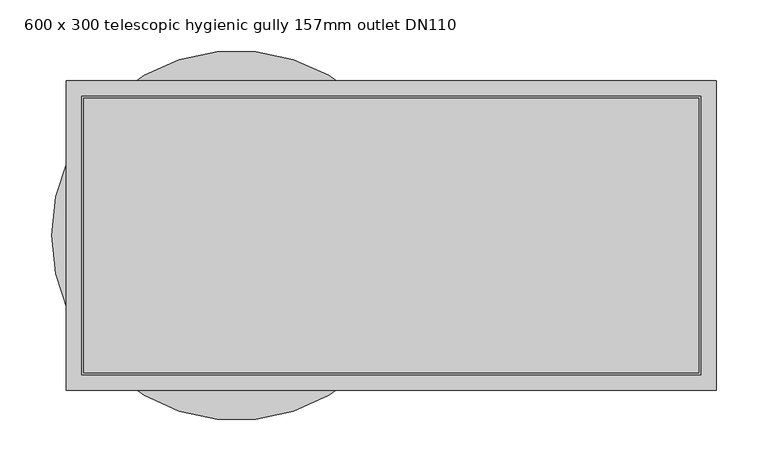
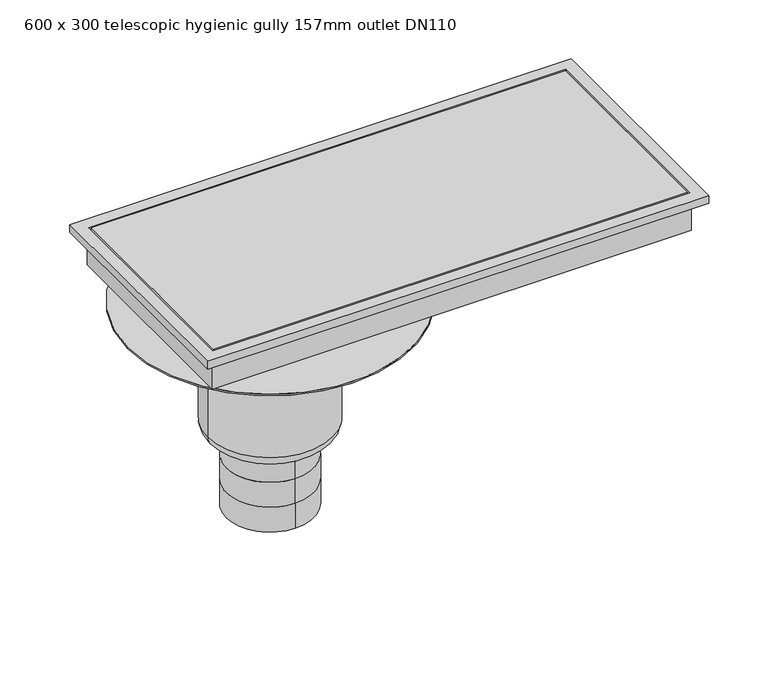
"""IFC4 building model written with IfcOpenShell, lengths in millimetres: sanitary terminal geometry, PF_ST_UN_Siphon telescopics eskis hygiene first_ACO : 600 x 300 telescopic hygienic gully 157mm outlet DN110."""

import ifcopenshell
import ifcopenshell.guid

model = None  # the IFC model being written
_history = None  # IfcOwnerHistory: only IFC2X3 demands one
_inside = {}  # id of a spatial element -> (the spatial element, [elements in it])
_under = {}  # id of a project, library or spatial element -> (it, [spatial elements below it])
_declared = {}  # id of a project -> (the project, [libraries it declares])
_typed = {}  # id of a type object -> (the type object, [elements of that type])
_made_of = {}  # id of a material, layer set ... -> (it, [elements and type objects made of it])


def new_model(schema):
    """Start an empty IFC model of exactly this schema.

    Asked for "IFC4X3", IfcOpenShell would pick the latest addendum, in which some entities
    have other attributes; the version numbers below select the first issue.
    IFC2X3 requires an IfcOwnerHistory on every rooted entity: one is made here for all.
    """
    global model, _history
    if schema == "IFC4X3":
        model = ifcopenshell.file(schema_version=(4, 3, 0, 0))
    else:
        model = ifcopenshell.file(schema=schema)
    _inside.clear()
    _under.clear()
    _declared.clear()
    _typed.clear()
    _made_of.clear()
    _history = None
    if model.schema == "IFC2X3":
        org = make("IfcOrganization", Name="unknown")
        user = make(
            "IfcPersonAndOrganization",
            ThePerson=make("IfcPerson", FamilyName="unknown"),
            TheOrganization=org,
        )
        app = make(
            "IfcApplication",
            ApplicationDeveloper=org,
            Version="unknown",
            ApplicationFullName="unknown",
            ApplicationIdentifier="unknown",
        )
        _history = make(
            "IfcOwnerHistory",
            OwningUser=user,
            OwningApplication=app,
            ChangeAction="ADDED",
            CreationDate=0,
        )
    return model


def make(cls, **values):
    """One entity of the class cls with the attributes given. An attribute that is None is left unset."""
    return model.create_entity(
        cls, **{name: value for name, value in values.items() if value is not None}
    )


def rooted(cls, **values):
    """An entity with a GlobalId (a new one), such as an element, a storey or a relation."""
    return make(cls, GlobalId=ifcopenshell.guid.new(), OwnerHistory=_history, **values)


def si_unit(unit_type, name, prefix=None):
    """IfcSIUnit, for example si_unit("LENGTHUNIT", "METRE", prefix="MILLI")."""
    return make("IfcSIUnit", UnitType=unit_type, Prefix=prefix, Name=name)


def assignment(units):
    """IfcUnitAssignment: the units of a project."""
    return None if units is None else make("IfcUnitAssignment", Units=units)


def point(xyz):
    """IfcCartesianPoint."""
    return None if xyz is None else make("IfcCartesianPoint", Coordinates=xyz)


def direction(xyz):
    """IfcDirection."""
    return None if xyz is None else make("IfcDirection", DirectionRatios=xyz)


def frame(location, z_axis=None, x_axis=None):
    """IfcAxis2Placement3D, a coordinate frame: its origin and axes. An axis left out is left unset."""
    return make(
        "IfcAxis2Placement3D",
        Location=point(location),
        Axis=direction(z_axis),
        RefDirection=direction(x_axis),
    )


def frame_2d(location, x_axis=None):
    """IfcAxis2Placement2D, a coordinate frame in the plane: its origin and x axis."""
    return make(
        "IfcAxis2Placement2D", Location=point(location), RefDirection=direction(x_axis)
    )


def origin():
    """The frame at (0, 0, 0) with its axes left unset."""
    return frame((0.0, 0.0, 0.0))


def origin_2d():
    """The frame at (0, 0) in the plane with its x axis left unset."""
    return frame_2d((0.0, 0.0))


def place(relative_to, where):
    """IfcLocalPlacement: puts the frame where relative to a parent placement (None: the world)."""
    return make(
        "IfcLocalPlacement", PlacementRelTo=relative_to, RelativePlacement=where
    )


def context(
    kind, dimensions, precision=None, world=None, true_north=None, identifier=None
):
    """IfcGeometricRepresentationContext, for example the 3D "Model" context."""
    return make(
        "IfcGeometricRepresentationContext",
        ContextIdentifier=identifier,
        ContextType=kind,
        CoordinateSpaceDimension=dimensions,
        Precision=precision,
        WorldCoordinateSystem=world,
        TrueNorth=true_north,
    )


def project(units=None, contexts=None):
    """IfcProject with its units and contexts."""
    return rooted(
        "IfcProject",
        Name="project",
        RepresentationContexts=contexts,
        UnitsInContext=assignment(units),
    )


def spatial(cls, under=None, at=None, **own):
    """A site, building, storey or space (cls), placed at a placement, below another one or the project."""
    s = rooted(cls, ObjectPlacement=at, **own)
    if under is not None:
        _under.setdefault(under.id(), (under, []))[1].append(s)
    return s


def polyline(points):
    """IfcPolyline through the points."""
    return make("IfcPolyline", Points=[point(p) for p in points])


def circle_curve(where, radius):
    """IfcCircle in the frame where."""
    return make("IfcCircle", Position=where, Radius=radius)


def ellipse_curve(where, semi_axis1, semi_axis2):
    """IfcEllipse in the frame where."""
    return make(
        "IfcEllipse", Position=where, SemiAxis1=semi_axis1, SemiAxis2=semi_axis2
    )


def trimmed(basis, trim1, trim2, sense, master):
    """IfcTrimmedCurve: the piece of a basis curve between two trims."""
    return make(
        "IfcTrimmedCurve",
        BasisCurve=basis,
        Trim1=trim1,
        Trim2=trim2,
        SenseAgreement=sense,
        MasterRepresentation=master,
    )


def segment(curve, same_sense, transition):
    """IfcCompositeCurveSegment."""
    return make(
        "IfcCompositeCurveSegment",
        Transition=transition,
        SameSense=same_sense,
        ParentCurve=curve,
    )


def composite_curve(segments, self_intersect=None):
    """IfcCompositeCurve: segments joined end to end."""
    return make("IfcCompositeCurve", Segments=segments, SelfIntersect=self_intersect)


def outline(outer, holes=None, kind="AREA"):
    """IfcArbitraryClosedProfileDef: a profile drawn as a closed curve; with holes, ...WithVoids."""
    if holes is None:
        return make("IfcArbitraryClosedProfileDef", ProfileType=kind, OuterCurve=outer)
    return make(
        "IfcArbitraryProfileDefWithVoids",
        ProfileType=kind,
        OuterCurve=outer,
        InnerCurves=holes,
    )


def extrude(swept, where, along, depth):
    """IfcExtrudedAreaSolid: the profile swept, set in the frame where, extruded along a direction by depth."""
    return make(
        "IfcExtrudedAreaSolid",
        SweptArea=swept,
        Position=where,
        ExtrudedDirection=direction(along),
        Depth=depth,
    )


def faces_of(points, faces, orient=None, outer=None):
    """IfcFace entities. A face is a list of loops; a loop is a list of indices into points, from 0.

    orient and outer hold one flag for each loop. By default every Orientation is true, the
    first loop of a face is its IfcFaceOuterBound and the others are IfcFaceBound.
    """
    made = []
    for i, loops in enumerate(faces):
        bounds = []
        for j, loop in enumerate(loops):
            is_outer = j == 0 if outer is None else outer[i][j]
            bounds.append(
                make(
                    "IfcFaceOuterBound" if is_outer else "IfcFaceBound",
                    Bound=make("IfcPolyLoop", Polygon=[points[k] for k in loop]),
                    Orientation=True if orient is None else orient[i][j],
                )
            )
        made.append(make("IfcFace", Bounds=bounds))
    return made


def faceted_brep(points, faces, orient=None, outer=None, voids=None):
    """IfcFacetedBrep: a solid bounded by flat faces; with voids (closed shells), ...WithVoids."""
    shared = [point(p) for p in points]
    hull = make("IfcClosedShell", CfsFaces=faces_of(shared, faces, orient, outer))
    if voids is None:
        return make("IfcFacetedBrep", Outer=hull)
    return make(
        "IfcFacetedBrepWithVoids",
        Outer=hull,
        Voids=[
            make(cls, CfsFaces=faces_of(shared, fs, o, b)) for cls, fs, o, b in voids
        ],
    )


def shape(context_of_items, identifier, shape_type, items):
    """IfcShapeRepresentation: the items that make up one representation, for example the "Body"."""
    return make(
        "IfcShapeRepresentation",
        ContextOfItems=context_of_items,
        RepresentationIdentifier=identifier,
        RepresentationType=shape_type,
        Items=items,
    )


def source(mapping_origin, context_of_items, identifier, shape_type, items):
    """IfcRepresentationMap: a shape defined once, which mapped items show again and again."""
    return make(
        "IfcRepresentationMap",
        MappingOrigin=mapping_origin,
        MappedRepresentation=shape(context_of_items, identifier, shape_type, items),
    )


def transform(
    local_origin,
    x_axis=None,
    y_axis=None,
    z_axis=None,
    scale=None,
    scale2=None,
    scale3=None,
    uniform=True,
):
    """IfcCartesianTransformationOperator3D, or its non-uniform kind. x_axis, y_axis, z_axis: its Axis1, 2, 3."""
    if uniform:
        return make(
            "IfcCartesianTransformationOperator3D",
            Axis1=direction(x_axis),
            Axis2=direction(y_axis),
            LocalOrigin=point(local_origin),
            Scale=scale,
            Axis3=direction(z_axis),
        )
    return make(
        "IfcCartesianTransformationOperator3DnonUniform",
        Axis1=direction(x_axis),
        Axis2=direction(y_axis),
        LocalOrigin=point(local_origin),
        Scale=scale,
        Axis3=direction(z_axis),
        Scale2=scale2,
        Scale3=scale3,
    )


def mapped(mapping_source, mapping_target):
    """IfcMappedItem: shows the shape of a source again, moved by a transform."""
    return make(
        "IfcMappedItem", MappingSource=mapping_source, MappingTarget=mapping_target
    )


def made_of(thing, what):
    """Note that an element or type object is made of a material, layer set ...; save() writes the relation."""
    if what is not None:
        _made_of.setdefault(what.id(), (what, []))[1].append(thing)
    return thing


def element(
    cls,
    number,
    at=None,
    inside=None,
    cuts=None,
    type_object=None,
    material=None,
    context=None,
    identifier="Body",
    shape_type=None,
    held_by="IfcProductDefinitionShape",
    body=None,
    shapes=None,
    **own,
):
    """One element of the class cls, such as IfcWall. Its Tag is "e" and its number.

    at: its placement. inside: the storey or other place that contains it. cuts: it is an
    opening in that element (IfcRelVoidsElement). A single representation is given by context,
    identifier, shape_type and body (its items); several are given by shapes. held_by: the class
    of the entity that holds the representations. save() writes the other relations.
    """
    e = rooted(cls, Tag="e%d" % number, ObjectPlacement=at, **own)
    if body is not None:
        shapes = [shape(context, identifier, shape_type, body)]
    if shapes is not None:
        e.Representation = make(held_by, Representations=shapes)
    if inside is not None:
        _inside.setdefault(inside.id(), (inside, []))[1].append(e)
    if cuts is not None:
        rooted(
            "IfcRelVoidsElement", RelatingBuildingElement=cuts, RelatedOpeningElement=e
        )
    if type_object is not None:
        _typed.setdefault(type_object.id(), (type_object, []))[1].append(e)
    return made_of(e, material)


def aggregate(whole, parts):
    """IfcRelAggregates: a whole, such as a stair, and the parts it consists of."""
    return rooted("IfcRelAggregates", RelatingObject=whole, RelatedObjects=parts)


def save(model, path):
    """Write the relations noted so far, then the file.

    IfcRelAggregates (storeys below a building ...), IfcRelContainedInSpatialStructure (elements
    in a storey), IfcRelDefinesByType, IfcRelAssociatesMaterial and IfcRelDeclares: one each for
    every whole, place, type object, material and project.
    """
    for whole, parts in _under.values():
        aggregate(whole, parts)
    for where, things in _inside.values():
        rooted(
            "IfcRelContainedInSpatialStructure",
            RelatedElements=things,
            RelatingStructure=where,
        )
    for kind, things in _typed.values():
        rooted("IfcRelDefinesByType", RelatedObjects=things, RelatingType=kind)
    for what, things in _made_of.values():
        rooted("IfcRelAssociatesMaterial", RelatedObjects=things, RelatingMaterial=what)
    for by, libraries in _declared.values():
        rooted("IfcRelDeclares", RelatingContext=by, RelatedDefinitions=libraries)
    model.write(path)


def plane_surface(at):
    """IfcPlane: the flat surface through the origin of the frame at, square to its z axis."""
    return make("IfcPlane", Position=at)


def cylinder_surface(at, radius):
    """IfcCylindricalSurface: all points at the distance radius from the z axis of the frame at."""
    return make("IfcCylindricalSurface", Position=at, Radius=radius)


def revolved_surface(curve, axis_point, axis_direction):
    """IfcSurfaceOfRevolution: the curve turned about the line through axis_point along axis_direction."""
    return make(
        "IfcSurfaceOfRevolution",
        SweptCurve=make("IfcArbitraryOpenProfileDef", ProfileType="CURVE", Curve=curve),
        AxisPosition=make("IfcAxis1Placement", Location=point(axis_point), Axis=direction(axis_direction)),
    )


def advanced_brep(points, edges, surfaces, faces):
    """IfcAdvancedBrep: a solid bounded by faces that lie on surfaces and meet in shared edges.

    An edge is (start, end): straight between two places in points (the first is 0);
    or (start, end, curve); or (start, end, curve, False) where it runs against its curve.
    A face is (place in surfaces, loops), or (place, loops, False) where it looks against
    its surface's normal. A loop lists edges by number (the first is 1), with a minus sign
    where the edge is run from its end to its start. The first loop is the outer one.
    """
    corners = [point(p) for p in points]
    vertices = [make("IfcVertexPoint", VertexGeometry=c) for c in corners]
    made = []
    for start, end, *more in edges:
        made.append(
            make(
                "IfcEdgeCurve",
                EdgeStart=vertices[start],
                EdgeEnd=vertices[end],
                EdgeGeometry=more[0] if more else make("IfcPolyline", Points=[corners[start], corners[end]]),
                SameSense=more[1] if len(more) > 1 else True,
            )
        )
    hull = []
    for where, loops, *sense in faces:
        bounds = []
        for j, loop in enumerate(loops):
            ring = [make("IfcOrientedEdge", EdgeElement=made[abs(k) - 1], Orientation=k > 0) for k in loop]
            bounds.append(
                make(
                    "IfcFaceOuterBound" if j == 0 else "IfcFaceBound",
                    Bound=make("IfcEdgeLoop", EdgeList=ring),
                    Orientation=True,
                )
            )
        hull.append(make("IfcAdvancedFace", Bounds=bounds, FaceSurface=surfaces[where], SameSense=sense[0] if sense else True))
    return make("IfcAdvancedBrep", Outer=make("IfcClosedShell", CfsFaces=hull))


def sanitary_terminal_600_x_300_telescopic_hygienic_gully_157mm_21e1eede(model_context):
    return source(origin(), model_context, "Body", "SolidModel", [
        extrude(outline(composite_curve([segment(trimmed(circle_curve(origin_2d(), 71.5), [point((-71.5, 0.0))], [point((71.5, 0.0))], False, "CARTESIAN"), True, "CONTINUOUS"), segment(trimmed(circle_curve(origin_2d(), 71.5), [point((71.5, 0.0))], [point((-71.5, 0.0))], False, "CARTESIAN"), True, "CONTINUOUS")], self_intersect=False)), frame((0.0, 0.0, -240.0), z_axis=(0.0, 0.0, 1.0), x_axis=(1.0, 0.0, 0.0)), (0.0, 0.0, 1.0), 70.0),
        faceted_brep([(465.0, 150.0, -130.0), (465.0, 150.0, -120.0), (465.0, -150.0, -120.0), (465.0, -150.0, -130.0), (451.0, 136.0, -170.0), (451.0, 136.0, -130.0), (451.0, -136.0, -130.0), (451.0, -136.0, -170.0), (450.0, -135.0, -120.0), (450.0, 135.0, -120.0), (450.0, 135.0, -160.0), (450.0, -135.0, -160.0), (-165.0, -150.0, -120.0), (-165.0, -150.0, -130.0), (-151.0, -136.0, -130.0), (-151.0, -136.0, -170.0), (-150.0, -135.0, -120.0), (-150.0, -135.0, -160.0), (-165.0, 150.0, -120.0), (-165.0, 150.0, -130.0), (-151.0, 136.0, -130.0), (-151.0, 136.0, -170.0), (-150.0, 135.0, -120.0), (-150.0, 135.0, -160.0)], [[[0, 1, 2, 3]], [[4, 5, 6, 7]], [[8, 9, 10, 11]], [[3, 2, 12, 13]], [[7, 6, 14, 15]], [[16, 8, 11, 17]], [[13, 12, 18, 19]], [[15, 14, 20, 21]], [[22, 16, 17, 23]], [[2, 1, 18, 12], [9, 8, 16, 22]], [[1, 0, 19, 18]], [[0, 3, 13, 19], [6, 5, 20, 14]], [[5, 4, 21, 20]], [[4, 7, 15, 21]], [[9, 22, 23, 10]], [[11, 10, 23, 17]]]),
        extrude(outline(polyline([(448.0, 133.0), (448.0, -133.0), (-148.0, -133.0), (-148.0, 133.0), (448.0, 133.0)])), frame((0.0, 0.0, -160.0), z_axis=(0.0, 0.0, 1.0), x_axis=(1.0, 0.0, 0.0)), (0.0, 0.0, 1.0), 40.0),
        advanced_brep(
        [(0.0, -55.0, -457.0), (0.0, 55.0, -457.0), (0.0, -55.0, -424.0), (0.0, 55.0, -424.0), (0.0, -55.0, -391.0), (0.0, 55.0, -391.0), (0.0, 55.0, -358.0), (55.0, 0.0, -358.0), (0.0, -55.0, -358.0), (-55.0, 0.0, -358.0), (78.5, 0.0, -341.5), (-78.5, 0.0, -341.5), (-78.5, 0.0, -189.0), (78.5, 0.0, -189.0), (62.0, 0.0, -358.0), (-62.0, 0.0, -358.0), (-179.0, 0.0, -189.0), (179.0, 0.0, -189.0), (-179.0, 0.0, -187.0), (179.0, 0.0, -187.0)],
        [
            (0, 1, circle_curve(frame((0.0, 0.0, -457.0), z_axis=(0.0, 0.0, -1.0), x_axis=(0.0, 1.0, 0.0)), 55.0)),
            (1, 0, circle_curve(frame((0.0, 0.0, -457.0), z_axis=(0.0, 0.0, -1.0), x_axis=(0.0, 1.0, 0.0)), 55.0)),
            (0, 2),
            (2, 3, circle_curve(frame((0.0, 0.0, -424.0), z_axis=(0.0, 0.0, -1.0), x_axis=(0.0, 1.0, 0.0)), 55.0)),
            (3, 1),
            (3, 2, circle_curve(frame((0.0, 0.0, -424.0), z_axis=(0.0, 0.0, -1.0), x_axis=(0.0, 1.0, 0.0)), 55.0)),
            (4, 2),
            (3, 5),
            (5, 4, circle_curve(frame((0.0, 0.0, -391.0), z_axis=(0.0, 0.0, -1.0), x_axis=(1.0, 0.0, 0.0)), 55.0)),
            (4, 5, circle_curve(frame((0.0, 0.0, -391.0), z_axis=(0.0, 0.0, -1.0), x_axis=(-1.0, 0.0, 0.0)), 55.0)),
            (5, 6),
            (6, 7, circle_curve(frame((0.0, 0.0, -358.0), z_axis=(0.0, 0.0, -1.0), x_axis=(0.0, 1.0, 0.0)), 55.0)),
            (7, 8, circle_curve(frame((0.0, 0.0, -358.0), z_axis=(0.0, 0.0, -1.0), x_axis=(0.0, 1.0, 0.0)), 55.0)),
            (8, 4),
            (8, 9, circle_curve(frame((0.0, 0.0, -358.0), z_axis=(0.0, 0.0, -1.0), x_axis=(0.0, 1.0, 0.0)), 55.0)),
            (9, 6, circle_curve(frame((0.0, 0.0, -358.0), z_axis=(0.0, 0.0, -1.0), x_axis=(0.0, 1.0, 0.0)), 55.0)),
            (10, 11, circle_curve(frame((0.0, 0.0, -341.5), z_axis=(0.0, 0.0, 1.0), x_axis=(-1.0, 0.0, 0.0)), 78.5)),
            (11, 12),
            (12, 13, circle_curve(frame((0.0, 0.0, -189.0), z_axis=(0.0, 0.0, -1.0), x_axis=(-1.0, 0.0, 0.0)), 78.5)),
            (13, 10),
            (11, 10, circle_curve(frame((0.0, 0.0, -341.5), z_axis=(0.0, 0.0, 1.0), x_axis=(-1.0, 0.0, 0.0)), 78.5)),
            (13, 12, circle_curve(frame((0.0, 0.0, -189.0), z_axis=(0.0, 0.0, -1.0), x_axis=(-1.0, 0.0, 0.0)), 78.5)),
            (10, 14, circle_curve(frame((62.0, 0.0, -341.5), z_axis=(0.0, 1.0, 0.0), x_axis=(-1.0, 0.0, 0.0)), 16.5)),
            (14, 15, circle_curve(frame((0.0, 0.0, -358.0), z_axis=(0.0, 0.0, 1.0), x_axis=(-1.0, 0.0, 0.0)), 62.0)),
            (15, 11, circle_curve(frame((-62.0, 0.0, -341.5), z_axis=(0.0, 1.0, 0.0), x_axis=(1.0, 0.0, 0.0)), 16.5)),
            (15, 14, circle_curve(frame((0.0, 0.0, -358.0), z_axis=(0.0, 0.0, 1.0), x_axis=(-1.0, 0.0, 0.0)), 62.0)),
            (14, 7),
            (9, 15),
            (16, 17, circle_curve(frame((0.0, 0.0, -189.0), z_axis=(0.0, 0.0, -1.0), x_axis=(1.0, 0.0, 0.0)), 179.0)),
            (17, 16, circle_curve(frame((0.0, 0.0, -189.0), z_axis=(0.0, 0.0, -1.0), x_axis=(1.0, 0.0, 0.0)), 179.0)),
            (18, 19, circle_curve(frame((0.0, 0.0, -187.0), z_axis=(0.0, 0.0, 1.0), x_axis=(1.0, 0.0, 0.0)), 179.0)),
            (19, 18, circle_curve(frame((0.0, 0.0, -187.0), z_axis=(0.0, 0.0, 1.0), x_axis=(1.0, 0.0, 0.0)), 179.0)),
            (17, 19),
            (18, 16),
        ],
        [
            plane_surface(frame((0.0, 55.0, -457.0), z_axis=(0.0, 0.0, -1.0), x_axis=(1.0, 0.0, 0.0))),
            cylinder_surface(frame((0.0, 0.0, -424.0), z_axis=(0.0, 0.0, -1.0), x_axis=(0.0, 1.0, 0.0)), 55.0),
            cylinder_surface(frame((0.0, 0.0, -391.0), z_axis=(0.0, 0.0, -1.0), x_axis=(1.0, 0.0, 0.0)), 55.0),
            cylinder_surface(frame((0.0, 0.0, -391.0), z_axis=(0.0, 0.0, -1.0), x_axis=(-1.0, 0.0, 0.0)), 55.0),
            cylinder_surface(frame((0.0, 0.0, -358.0), z_axis=(0.0, 0.0, -1.0), x_axis=(0.0, 1.0, 0.0)), 55.0),
            cylinder_surface(frame((0.0, 0.0, -127.0), z_axis=(0.0, 0.0, -1.0), x_axis=(-1.0, 0.0, 0.0)), 78.5),
            revolved_surface(trimmed(ellipse_curve(frame((-62.0, 0.0, -341.5), z_axis=(0.0, -1.0, 0.0), x_axis=(1.0, 0.0, 0.0)), 16.5, 16.5), [point((-78.5, 0.0, -341.5))], [point((-62.0, 0.0, -358.0))], True, "CARTESIAN"), (0.0, 0.0, -127.0), (0.0, 0.0, -1.0)),
            plane_surface(frame((0.0, 0.0, -358.0), z_axis=(0.0, 0.0, -1.0), x_axis=(-1.0, 0.0, 0.0))),
            plane_surface(frame((179.0, 0.0, -189.0), z_axis=(0.0, 0.0, -1.0), x_axis=(0.0, -1.0, 0.0))),
            plane_surface(frame((179.0, 0.0, -187.0), z_axis=(0.0, 0.0, 1.0), x_axis=(0.0, 1.0, 0.0))),
            cylinder_surface(frame((0.0, 0.0, -189.0), z_axis=(0.0, 0.0, 1.0), x_axis=(1.0, 0.0, 0.0)), 179.0),
        ],
        [
            (0, [[1, 2]]),
            (1, [[-1, 3, 4, 5]]),
            (1, [[-2, -5, 6, -3]]),
            (2, [[7, -6, 8, 9]]),
            (3, [[-7, 10, -8, -4]]),
            (4, [[11, 12, 13, 14, -9]]),
            (4, [[-11, -10, -14, 15, 16]]),
            (5, [[17, 18, 19, 20]]),
            (5, [[-18, 21, -20, 22]]),
            (6, [[-17, 23, 24, 25]]),
            (6, [[-21, -25, 26, -23]]),
            (7, [[-24, 27, -12, -16, 28]]),
            (7, [[-26, -28, -15, -13, -27]]),
            (8, [[29, 30], [-19, -22]]),
            (9, [[31, 32]]),
            (10, [[-30, 33, -31, 34]]),
            (10, [[-29, -34, -32, -33]]),
        ],
    ),
    ])


if __name__ == "__main__":
    model = new_model("IFC4")
    model_context = context("Model", 3, world=origin())
    ifc_project = project(units=[si_unit("LENGTHUNIT", "METRE", prefix="MILLI")], contexts=[model_context])
    site = spatial("IfcSite", under=ifc_project)
    building = spatial("IfcBuilding", under=site)
    placement = place(None, origin())
    sanitary_terminal_600_x_300_telescopic_hygienic_gully_157mm_shape = sanitary_terminal_600_x_300_telescopic_hygienic_gully_157mm_21e1eede(model_context)
    element("IfcSanitaryTerminal", 1, ObjectType="PF_ST_UN_Siphon telescopics eskis hygiene first_ACO : 600 x 300 telescopic hygienic gully 157mm outlet DN110", at=placement, inside=building, context=model_context, shape_type="MappedRepresentation", body=[
        mapped(sanitary_terminal_600_x_300_telescopic_hygienic_gully_157mm_shape, transform((0.0, 0.0, 0.0), x_axis=(1.0, 0.0, 0.0), y_axis=(0.0, 1.0, 0.0), z_axis=(0.0, 0.0, 1.0))),
    ])
    save(model, "model.ifc")
